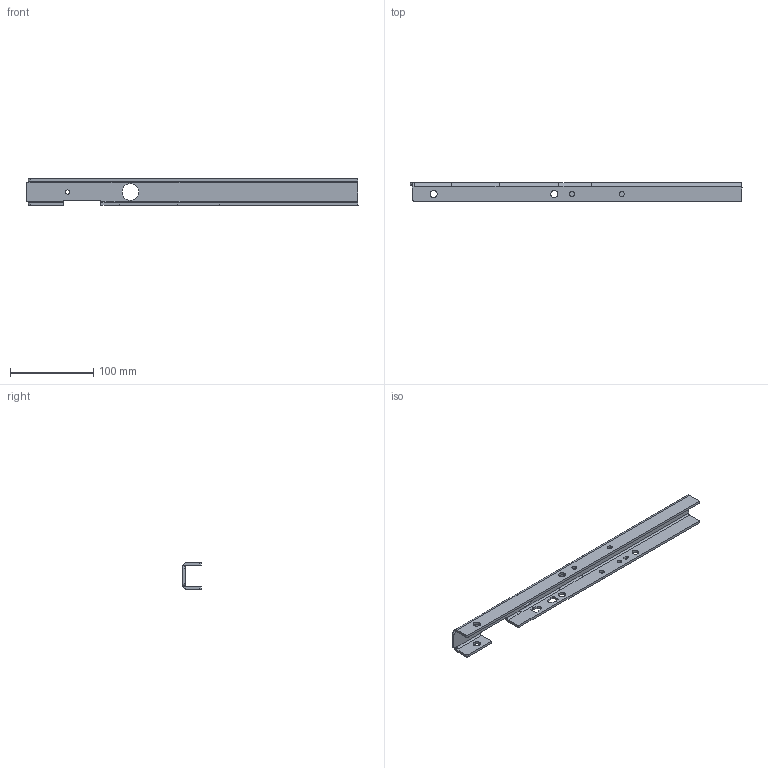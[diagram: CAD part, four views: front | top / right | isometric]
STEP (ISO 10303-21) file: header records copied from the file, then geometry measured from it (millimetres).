
FILE_DESCRIPTION(('CATIA V5 STEP Exchange'),'2;1');
FILE_NAME('C:\Users\nobody\Desktop\SHT0017065_B.stp','2025-06-11T07:46:34+00:00',('none'),('none'),'CATIA Version 5 Release 20 GA (IN-10)','CATIA V5 STEP AP203 Edition 2','none');
FILE_SCHEMA(('AP203_CONFIGURATION_CONTROLLED_3D_DESIGN_OF_MECHANICAL_PARTS_AND_ASSEMBLIES_MIM_LF { 1 0 10303 403 2 1 2}'));
Length unit declared in the file: millimetre
Products named in the file (1): SHT0017065
Bounding box: 399 x 22 x 32 mm (x, y, z)
Volume: 73717.2 mm3; surface area: 53216.4 mm2
Topology: 1 solids, 1 shells, 105 faces, 320 edges, 217 vertices
Faces by surface type: cylinder 68, plane 35, extrusion 2
Entity records: 3763 total; most frequent: CARTESIAN_POINT 928, ORIENTED_EDGE 640, DIRECTION 465, EDGE_CURVE 320, VERTEX_POINT 217, AXIS2_PLACEMENT_3D 192, VECTOR 186, LINE 184
